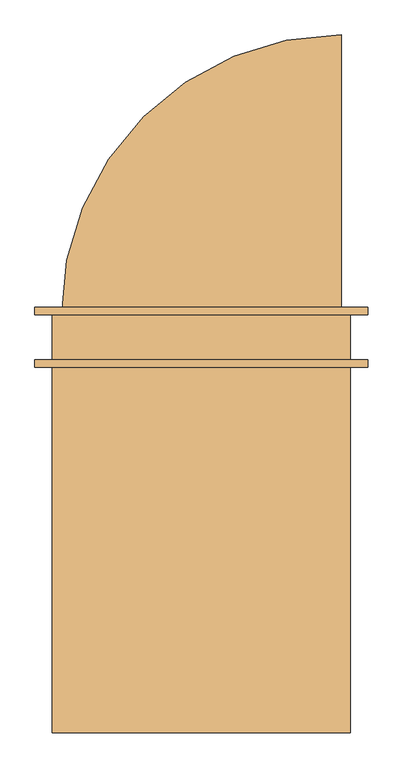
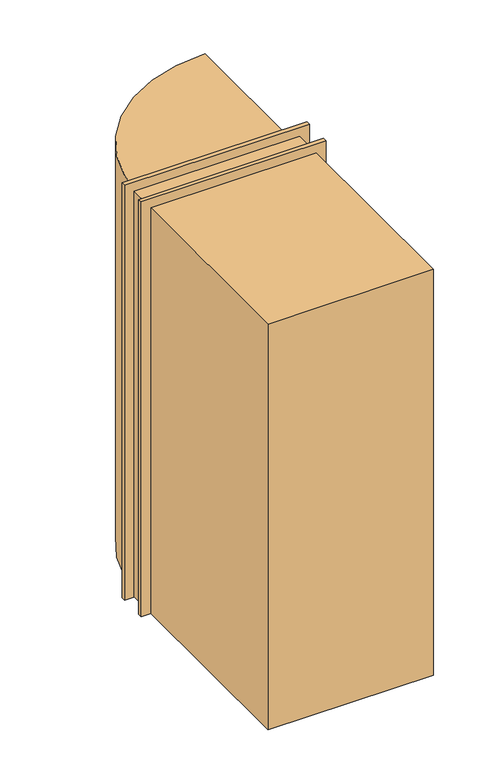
"""IFC4 building model written with IfcOpenShell, lengths in millimetres: door geometry, Дверь_Деревянная_Внутренняя_Однопольная_ГОСТ_475-2016 : 0810 х 2070(h)_Л_с Порогом."""

from ifc_helpers import new_model, si_unit, point, frame, frame_2d, origin, origin_with_axes, place, context, project, spatial, polyline, circle_curve, trimmed, segment, composite_curve, outline, extrude, faceted_brep, source, transform, mapped, element, save
from ifc_brep_helpers import plane_surface, cylinder_surface, revolved_surface, advanced_brep


def door_607082e9(model_context):
    return source(origin(), model_context, "Body", "SolidModel", [
        extrude(outline(composite_curve([segment(polyline([(375.0, 806.825), (375.0, 56.825), (-375.0, 56.825)]), True, "CONTINUOUS"), segment(trimmed(circle_curve(frame_2d((375.0, 56.825)), 750.0), [point((-375.0, 56.825))], [point((375.0, 806.825))], False, "CARTESIAN"), True, "CONTINUOUS")], self_intersect=False)), origin_with_axes(), (0.0, 0.0, 1.0), 2045.0),
        extrude(outline(polyline([(-400.0, -1063.175), (-400.0, -63.175), (400.0, -63.175), (400.0, -1063.175), (-400.0, -1063.175)])), origin_with_axes(), (0.0, 0.0, 1.0), 2070.0),
        advanced_brep(
        [(-310.0, 15.825, 914.4), (-300.0, 15.825, 914.4), (-320.0, 15.825, 914.4), (-289.5241324, -33.175, 914.4), (-310.0, -33.175, 914.4), (-330.4758676, -33.175, 914.4), (-285.0, -31.3471319, 914.4), (-335.0, -31.3471319, 914.4), (-285.0, -27.8834537, 914.4), (-335.0, -27.8834537, 914.4), (-291.363764, -3.175, 914.4), (-328.636236, -3.175, 914.4), (-300.0, -3.175, 914.4), (-320.0, -3.175, 914.4)],
        [
            (0, 1),
            (1, 2, circle_curve(frame((-310.0, 15.825, 914.4), z_axis=(0.0, 1.0, 0.0), x_axis=(-1.0, 0.0, 0.0)), 10.0)),
            (2, 0),
            (2, 1, circle_curve(frame((-310.0, 15.825, 914.4), z_axis=(0.0, 1.0, 0.0), x_axis=(-1.0, 0.0, 0.0)), 10.0)),
            (3, 4),
            (4, 5),
            (5, 3, circle_curve(frame((-310.0, -33.175, 914.4), z_axis=(0.0, -1.0, 0.0), x_axis=(-1.0, 0.0, 0.0)), 20.4758676)),
            (3, 5, circle_curve(frame((-310.0, -33.175, 914.4), z_axis=(0.0, -1.0, 0.0), x_axis=(-1.0, 0.0, 0.0)), 20.4758676)),
            (6, 3),
            (5, 7),
            (7, 6, circle_curve(frame((-310.0, -31.3471319, 914.4), z_axis=(0.0, -1.0, 0.0), x_axis=(-1.0, 0.0, 0.0)), 25.0)),
            (6, 7, circle_curve(frame((-310.0, -31.3471319, 914.4), z_axis=(0.0, -1.0, 0.0), x_axis=(-1.0, 0.0, 0.0)), 25.0)),
            (8, 6),
            (7, 9),
            (9, 8, circle_curve(frame((-310.0, -27.8834537, 914.4), z_axis=(0.0, -1.0, 0.0), x_axis=(-1.0, 0.0, 0.0)), 25.0)),
            (8, 9, circle_curve(frame((-310.0, -27.8834537, 914.4), z_axis=(0.0, -1.0, 0.0), x_axis=(-1.0, 0.0, 0.0)), 25.0)),
            (10, 8),
            (9, 11),
            (11, 10, circle_curve(frame((-310.0, -3.175, 914.4), z_axis=(0.0, -1.0, 0.0), x_axis=(-1.0, 0.0, 0.0)), 18.636236)),
            (10, 11, circle_curve(frame((-310.0, -3.175, 914.4), z_axis=(0.0, -1.0, 0.0), x_axis=(-1.0, 0.0, 0.0)), 18.636236)),
            (12, 10),
            (11, 13),
            (13, 12, circle_curve(frame((-310.0, -3.175, 914.4), z_axis=(0.0, -1.0, 0.0), x_axis=(-1.0, 0.0, 0.0)), 10.0)),
            (12, 13, circle_curve(frame((-310.0, -3.175, 914.4), z_axis=(0.0, -1.0, 0.0), x_axis=(-1.0, 0.0, 0.0)), 10.0)),
            (1, 12),
            (13, 2),
        ],
        [
            plane_surface(frame((-310.0, 15.825, 914.4), z_axis=(0.0, 1.0, 0.0), x_axis=(-1.0, 0.0, 0.0))),
            plane_surface(frame((-310.0, -33.175, 914.4), z_axis=(0.0, -1.0, 0.0), x_axis=(-1.0, 0.0, 0.0))),
            revolved_surface(polyline([(-330.4758676, -33.175, 914.4), (-335.0, -31.3471319, 914.4)]), (-310.0, 15.825, 914.4), (0.0, 1.0, 0.0)),
            cylinder_surface(frame((-310.0, 15.825, 914.4), z_axis=(0.0, 1.0, 0.0), x_axis=(-1.0, 0.0, 0.0)), 25.0),
            revolved_surface(polyline([(-335.0, -27.8834537, 914.4), (-328.636236, -3.175, 914.4)]), (-310.0, 15.825, 914.4), (0.0, 1.0, 0.0)),
            plane_surface(frame((-310.0, -3.175, 914.4), z_axis=(0.0, 1.0, 0.0), x_axis=(-1.0, 0.0, 0.0))),
            cylinder_surface(frame((-310.0, 15.825, 914.4), z_axis=(0.0, 1.0, 0.0), x_axis=(-1.0, 0.0, 0.0)), 10.0),
        ],
        [
            (0, [[1, 2, 3]]),
            (0, [[-3, 4, -1]]),
            (1, [[5, 6, 7]]),
            (1, [[-6, -5, 8]]),
            (2, [[9, -7, 10, 11]]),
            (2, [[-10, -8, -9, 12]]),
            (3, [[13, -11, 14, 15]]),
            (3, [[-14, -12, -13, 16]]),
            (4, [[17, -15, 18, 19]]),
            (4, [[-18, -16, -17, 20]]),
            (5, [[21, -19, 22, 23]]),
            (5, [[-22, -20, -21, 24]]),
            (6, [[25, -23, 26, -2]]),
            (6, [[-26, -24, -25, -4]]),
        ],
    ),
        extrude(outline(composite_curve([segment(trimmed(circle_curve(frame_2d((914.4, -310.0)), 30.0), [point((914.4, -340.0))], [point((914.4, -280.0))], False, "CARTESIAN"), True, "CONTINUOUS"), segment(trimmed(circle_curve(frame_2d((914.4, -310.0)), 30.0), [point((914.4, -280.0))], [point((914.4, -340.0))], False, "CARTESIAN"), True, "CONTINUOUS")], self_intersect=False)), frame((0.0, 15.825, 0.0), z_axis=(0.0, 1.0, 0.0), x_axis=(0.0, 0.0, 1.0)), (0.0, 0.0, 1.0), 6.0),
        advanced_brep(
        [(-310.0, 62.825, 914.4), (-320.0, 62.825, 914.4), (-300.0, 62.825, 914.4), (-289.5241324, 111.825, 914.4), (-330.4758676, 111.825, 914.4), (-310.0, 111.825, 914.4), (-285.0, 109.9971319, 914.4), (-335.0, 109.9971319, 914.4), (-285.0, 106.5334537, 914.4), (-335.0, 106.5334537, 914.4), (-291.363764, 81.825, 914.4), (-328.636236, 81.825, 914.4), (-300.0, 81.825, 914.4), (-320.0, 81.825, 914.4)],
        [
            (0, 1),
            (1, 2, circle_curve(frame((-310.0, 62.825, 914.4), z_axis=(0.0, -1.0, 0.0), x_axis=(-1.0, 0.0, 0.0)), 10.0)),
            (2, 0),
            (2, 1, circle_curve(frame((-310.0, 62.825, 914.4), z_axis=(0.0, -1.0, 0.0), x_axis=(-1.0, 0.0, 0.0)), 10.0)),
            (3, 4, circle_curve(frame((-310.0, 111.825, 914.4), z_axis=(0.0, 1.0, 0.0), x_axis=(-1.0, 0.0, 0.0)), 20.4758676)),
            (4, 5),
            (5, 3),
            (4, 3, circle_curve(frame((-310.0, 111.825, 914.4), z_axis=(0.0, 1.0, 0.0), x_axis=(-1.0, 0.0, 0.0)), 20.4758676)),
            (6, 7, circle_curve(frame((-310.0, 109.9971319, 914.4), z_axis=(0.0, 1.0, 0.0), x_axis=(-1.0, 0.0, 0.0)), 25.0)),
            (7, 4),
            (3, 6),
            (7, 6, circle_curve(frame((-310.0, 109.9971319, 914.4), z_axis=(0.0, 1.0, 0.0), x_axis=(-1.0, 0.0, 0.0)), 25.0)),
            (8, 9, circle_curve(frame((-310.0, 106.5334537, 914.4), z_axis=(0.0, 1.0, 0.0), x_axis=(-1.0, 0.0, 0.0)), 25.0)),
            (9, 7),
            (6, 8),
            (9, 8, circle_curve(frame((-310.0, 106.5334537, 914.4), z_axis=(0.0, 1.0, 0.0), x_axis=(-1.0, 0.0, 0.0)), 25.0)),
            (10, 11, circle_curve(frame((-310.0, 81.825, 914.4), z_axis=(0.0, 1.0, 0.0), x_axis=(-1.0, 0.0, 0.0)), 18.636236)),
            (11, 9),
            (8, 10),
            (11, 10, circle_curve(frame((-310.0, 81.825, 914.4), z_axis=(0.0, 1.0, 0.0), x_axis=(-1.0, 0.0, 0.0)), 18.636236)),
            (12, 13, circle_curve(frame((-310.0, 81.825, 914.4), z_axis=(0.0, 1.0, 0.0), x_axis=(-1.0, 0.0, 0.0)), 10.0)),
            (13, 11),
            (10, 12),
            (13, 12, circle_curve(frame((-310.0, 81.825, 914.4), z_axis=(0.0, 1.0, 0.0), x_axis=(-1.0, 0.0, 0.0)), 10.0)),
            (1, 13),
            (12, 2),
        ],
        [
            plane_surface(frame((-310.0, 62.825, 914.4), z_axis=(0.0, -1.0, 0.0), x_axis=(-1.0, 0.0, 0.0))),
            plane_surface(frame((-310.0, 111.825, 914.4), z_axis=(0.0, 1.0, 0.0), x_axis=(-1.0, 0.0, 0.0))),
            revolved_surface(polyline([(-330.4758676, 111.825, 914.4), (-335.0, 109.9971319, 914.4)]), (-310.0, 62.825, 914.4), (0.0, -1.0, 0.0)),
            cylinder_surface(frame((-310.0, 62.825, 914.4), z_axis=(0.0, -1.0, 0.0), x_axis=(-1.0, 0.0, 0.0)), 25.0),
            revolved_surface(polyline([(-335.0, 106.5334537, 914.4), (-328.636236, 81.825, 914.4)]), (-310.0, 62.825, 914.4), (0.0, -1.0, 0.0)),
            plane_surface(frame((-310.0, 81.825, 914.4), z_axis=(0.0, -1.0, 0.0), x_axis=(-1.0, 0.0, 0.0))),
            cylinder_surface(frame((-310.0, 62.825, 914.4), z_axis=(0.0, -1.0, 0.0), x_axis=(-1.0, 0.0, 0.0)), 10.0),
        ],
        [
            (0, [[1, 2, 3]]),
            (0, [[-3, 4, -1]]),
            (1, [[5, 6, 7]]),
            (1, [[8, -7, -6]]),
            (2, [[9, 10, -5, 11]]),
            (2, [[12, -11, -8, -10]]),
            (3, [[13, 14, -9, 15]]),
            (3, [[16, -15, -12, -14]]),
            (4, [[17, 18, -13, 19]]),
            (4, [[20, -19, -16, -18]]),
            (5, [[21, 22, -17, 23]]),
            (5, [[24, -23, -20, -22]]),
            (6, [[-2, 25, -21, 26]]),
            (6, [[-4, -26, -24, -25]]),
        ],
    ),
        extrude(outline(composite_curve([segment(trimmed(circle_curve(frame_2d((914.4, -310.0)), 30.0), [point((914.4, -340.0))], [point((914.4, -280.0))], False, "CARTESIAN"), True, "CONTINUOUS"), segment(trimmed(circle_curve(frame_2d((914.4, -310.0)), 30.0), [point((914.4, -280.0))], [point((914.4, -340.0))], False, "CARTESIAN"), True, "CONTINUOUS")], self_intersect=False)), frame((0.0, 56.825, 0.0), z_axis=(0.0, 1.0, 0.0), x_axis=(0.0, 0.0, 1.0)), (0.0, 0.0, 1.0), 6.0),
        extrude(outline(polyline([(255.0, 33.4916667), (-255.0, 33.4916667), (-255.0, 45.1583333), (255.0, 45.1583333), (255.0, 33.4916667)])), frame((0.0, 0.0, 230.0), z_axis=(0.0, 0.0, 1.0), x_axis=(1.0, 0.0, 0.0)), (0.0, 0.0, 1.0), 1695.0),
        extrude(outline(polyline([(2045.0, -375.0), (25.0, -375.0), (25.0, 375.0), (2045.0, 375.0), (2045.0, -375.0)]), holes=[polyline([(1925.0, -255.0), (1925.0, 255.0), (230.0, 255.0), (230.0, -255.0), (1925.0, -255.0)])]), frame((0.0, 21.825, 0.0), z_axis=(0.0, 1.0, 0.0), x_axis=(0.0, 0.0, 1.0)), (0.0, 0.0, 1.0), 35.0),
        faceted_brep([(400.0, 56.825, 0.0), (400.0, -63.175, 0.0), (375.0, -63.175, 0.0), (375.0, -13.1, 0.0), (362.3, -13.1, 0.0), (362.3, 21.825, 0.0), (375.0, 21.825, 0.0), (375.0, 56.825, 0.0), (400.0, 56.825, 2070.0), (400.0, -63.175, 2070.0), (-400.0, -63.175, 2070.0), (-400.0, -63.175, 0.0), (-375.0, -63.175, 0.0), (-375.0, -63.175, 2045.0), (375.0, -63.175, 2045.0), (375.0, -13.1, 2045.0), (-375.0, -13.1, 2045.0), (-375.0, -13.1, 0.0), (-362.3, -13.1, 0.0), (-362.3, -13.1, 2032.3), (362.3, -13.1, 2032.3), (362.3, 21.825, 2032.3), (-362.3, 21.825, 2032.3), (-362.3, 21.825, 0.0), (-375.0, 21.825, 0.0), (-375.0, 21.825, 2045.0), (375.0, 21.825, 2045.0), (375.0, 56.825, 2045.0), (-375.0, 56.825, 2045.0), (-375.0, 56.825, 0.0), (-400.0, 56.825, 0.0), (-400.0, 56.825, 2070.0)], [[[0, 1, 2, 3, 4, 5, 6, 7]], [[1, 0, 8, 9]], [[2, 1, 9, 10, 11, 12, 13, 14]], [[3, 2, 14, 15]], [[4, 3, 15, 16, 17, 18, 19, 20]], [[5, 4, 20, 21]], [[6, 5, 21, 22, 23, 24, 25, 26]], [[7, 6, 26, 27]], [[0, 7, 27, 28, 29, 30, 31, 8]], [[9, 8, 31, 10]], [[15, 14, 13, 16]], [[21, 20, 19, 22]], [[27, 26, 25, 28]], [[30, 29, 24, 23, 18, 17, 12, 11]], [[10, 31, 30, 11]], [[16, 13, 12, 17]], [[22, 19, 18, 23]], [[28, 25, 24, 29]]]),
        extrude(outline(polyline([(0.0, 381.35), (0.0, 446.35), (2116.35, 446.35), (2116.35, -446.35), (0.0, -446.35), (0.0, -381.35), (2051.35, -381.35), (2051.35, 381.35), (0.0, 381.35)])), frame((0.0, -83.175, 0.0), z_axis=(0.0, 1.0, 0.0), x_axis=(0.0, 0.0, 1.0)), (0.0, 0.0, 1.0), 20.0),
        extrude(outline(polyline([(0.0, 381.35), (0.0, 446.35), (2116.35, 446.35), (2116.35, -446.35), (0.0, -446.35), (0.0, -381.35), (2051.35, -381.35), (2051.35, 381.35), (0.0, 381.35)])), frame((0.0, 56.825, 0.0), z_axis=(0.0, 1.0, 0.0), x_axis=(0.0, 0.0, 1.0)), (0.0, 0.0, 1.0), 20.0),
        extrude(outline(polyline([(375.0, 56.825), (375.0, 21.825), (-375.0, 21.825), (-375.0, 56.825), (375.0, 56.825)])), origin_with_axes(), (0.0, 0.0, 1.0), 25.0),
    ])


if __name__ == "__main__":
    model = new_model("IFC4")
    model_context = context("Model", 3, world=origin())
    ifc_project = project(units=[si_unit("LENGTHUNIT", "METRE", prefix="MILLI")], contexts=[model_context])
    site = spatial("IfcSite", under=ifc_project)
    building = spatial("IfcBuilding", under=site)
    placement = place(None, origin())
    door_shape = door_607082e9(model_context)
    element("IfcDoor", 1, ObjectType="Дверь_Деревянная_Внутренняя_Однопольная_ГОСТ_475-2016 : 0810 х 2070(h)_Л_с Порогом", at=placement, inside=building, context=model_context, shape_type="MappedRepresentation", body=[
        mapped(door_shape, transform((0.0, 0.0, 0.0), x_axis=(1.0, 0.0, 0.0), y_axis=(0.0, 1.0, 0.0), z_axis=(0.0, 0.0, 1.0))),
    ])
    save(model, "model.ifc")
